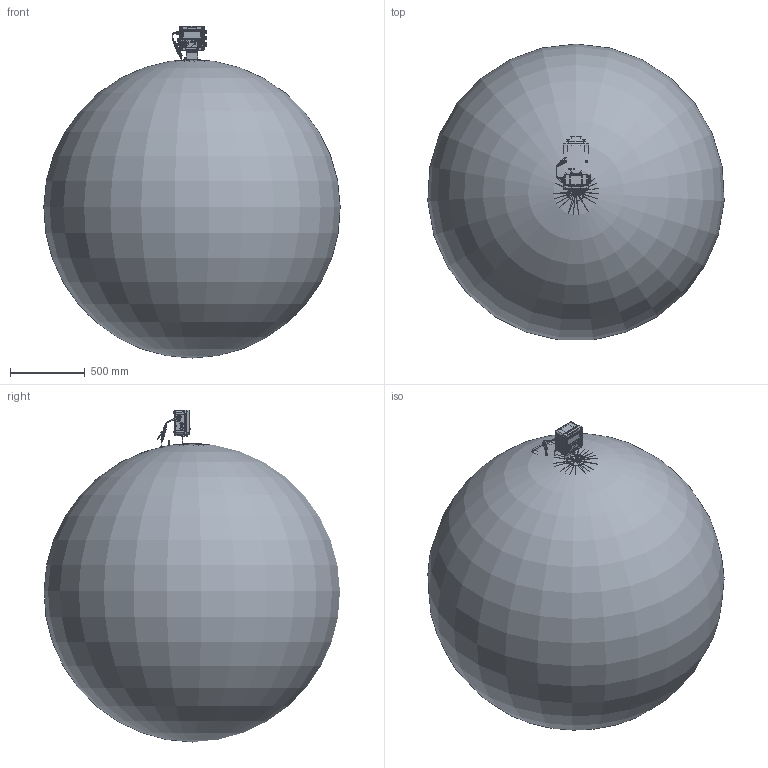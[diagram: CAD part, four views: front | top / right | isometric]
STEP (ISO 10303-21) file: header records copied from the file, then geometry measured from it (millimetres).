
FILE_DESCRIPTION(('STEP AP242'), '1');
FILE_NAME('ÑÃ-ÝÊÐ-Ð-160 ÐÂÃ-Á ëåâûé', '', ('UNSPECIFIED'), ('UNSPECIFIED'), 'C3D Converter', 'C3D Toolkit', '');
FILE_SCHEMA(('AP242_MANAGED_MODEL_BASED_3D_ENGINEERING_MIM_LF { 1 0 10303 442 1 1 4 }'));
Length unit declared in the file: millimetre
Bounding box: 1985.41 x 1982.05 x 2224.17 mm (x, y, z)
Volume: 4141052573.5 mm3; surface area: 13582326.7 mm2
Topology: 110 solids, 112 shells, 6765 faces, 17602 edges, 11357 vertices
Faces by surface type: plane 2115, extrusion 2064, cylinder 1414, cone 653, bspline 294, torus 194, sphere 31
Full cylindrical faces by diameter (mm): 2 x19, 2.2 x2, 2.459 x6, 2.5 x6, 3 x9, 3.2 x2, 3.242 x7, 3.459 x2, 3.688 x1, 4 x26, 4.134 x1, 4.2 x8, 4.3 x11, 4.5 x1, 4.917 x15, 5 x15, 5.5 x5, 6 x25, 6.3 x6, 7 x11, 8 x7, 8.1 x1, 8.5 x3, 9 x13, 9.264 x2, 10 x20, 10.376 x1, 10.5 x8, 10.598 x2, 10.7 x2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
Entity records: 352683 total; most frequent: CARTESIAN_POINT 146174, ORIENTED_EDGE 33516, DIRECTION 24552, EDGE_CURVE 16764, VERTEX_POINT 11306, VECTOR 9026, B_SPLINE_CURVE_WITH_KNOTS 8169, EDGE_LOOP 8107
